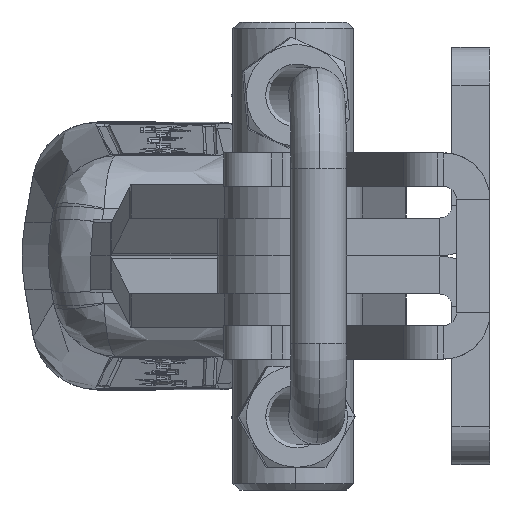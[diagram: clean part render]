
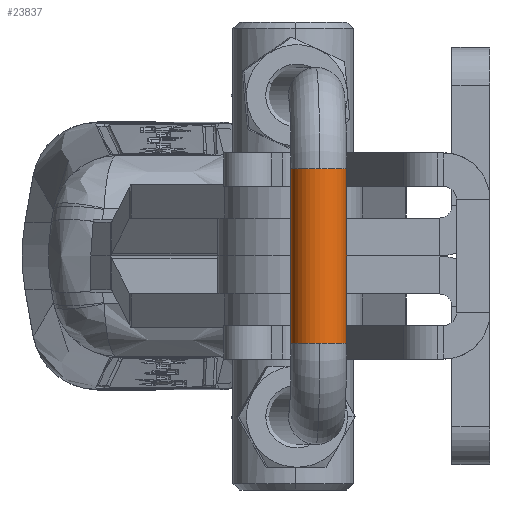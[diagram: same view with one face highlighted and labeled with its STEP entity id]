
A CAD part, left-side view. The second image highlights one B-rep face of the part: STEP entity #23837.
In plain terms, the highlighted cylindrical face has radius 2.2 mm (diameter 4.4 mm), a partial arc.
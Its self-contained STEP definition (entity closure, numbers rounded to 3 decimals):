
#33 = CARTESIAN_POINT ( 'NONE',  ( -6.9, 67.8, 0. ) ) ;
#314 = ORIENTED_EDGE ( 'NONE', *, *, #18533, .T. ) ;
#1699 = ORIENTED_EDGE ( 'NONE', *, *, #8609, .F. ) ;
#2208 = EDGE_LOOP ( 'NONE', ( #19010, #21232, #314, #25832, #11226, #1699 ) ) ;
#2421 = DIRECTION ( 'NONE',  ( 1., 0., 0. ) ) ;
#2561 = AXIS2_PLACEMENT_3D ( 'NONE', #3121, #21958, #5797 ) ;
#3121 = CARTESIAN_POINT ( 'NONE',  ( 6.9, 67.8, 0. ) ) ;
#4675 = DIRECTION ( 'NONE',  ( 1., 0., 0. ) ) ;
#4688 = AXIS2_PLACEMENT_3D ( 'NONE', #6271, #25173, #8998 ) ;
#5797 = DIRECTION ( 'NONE',  ( 0., 0., 1. ) ) ;
#5807 = CYLINDRICAL_SURFACE ( 'NONE', #6839, 2.2 ) ;
#6271 = CARTESIAN_POINT ( 'NONE',  ( -6.9, 67.8, 0. ) ) ;
#6839 = AXIS2_PLACEMENT_3D ( 'NONE', #33, #24296, #8109 ) ;
#7678 = CIRCLE ( 'NONE', #28872, 2.2 ) ;
#8109 = DIRECTION ( 'NONE',  ( 0., 0., -1. ) ) ;
#8609 = EDGE_CURVE ( 'NONE', #11416, #32201, #16649, .T. ) ;
#8998 = DIRECTION ( 'NONE',  ( 0., 0., 1. ) ) ;
#10195 = CARTESIAN_POINT ( 'NONE',  ( -6.9, 67.8, 2.2 ) ) ;
#10313 = DIRECTION ( 'NONE',  ( 1., 0., 0. ) ) ;
#11195 = CARTESIAN_POINT ( 'NONE',  ( 6.9, 70., 0. ) ) ;
#11226 = ORIENTED_EDGE ( 'NONE', *, *, #13157, .F. ) ;
#11416 = VERTEX_POINT ( 'NONE', #13164 ) ;
#12707 = CARTESIAN_POINT ( 'NONE',  ( -6.9, 67.8, -2.2 ) ) ;
#13157 = EDGE_CURVE ( 'NONE', #32201, #33493, #7678, .T. ) ;
#13164 = CARTESIAN_POINT ( 'NONE',  ( -6.9, 67.8, -2.2 ) ) ;
#13400 = AXIS2_PLACEMENT_3D ( 'NONE', #18535, #2421, #21247 ) ;
#13991 = CIRCLE ( 'NONE', #13400, 2.2 ) ;
#16649 = LINE ( 'NONE', #12707, #30173 ) ;
#17142 = CARTESIAN_POINT ( 'NONE',  ( 6.9, 67.8, -2.2 ) ) ;
#17337 = CARTESIAN_POINT ( 'NONE',  ( -6.9, 67.8, 2.2 ) ) ;
#17791 = VECTOR ( 'NONE', #10313, 1000. ) ;
#18533 = EDGE_CURVE ( 'NONE', #29770, #23942, #28794, .T. ) ;
#18535 = CARTESIAN_POINT ( 'NONE',  ( -6.9, 67.8, 0. ) ) ;
#18934 = EDGE_CURVE ( 'NONE', #21807, #29770, #13991, .T. ) ;
#19010 = ORIENTED_EDGE ( 'NONE', *, *, #27797, .T. ) ;
#19392 = CIRCLE ( 'NONE', #2561, 2.2 ) ;
#20829 = CARTESIAN_POINT ( 'NONE',  ( 6.9, 67.8, 0. ) ) ;
#21020 = FACE_OUTER_BOUND ( 'NONE', #2208, .T. ) ;
#21232 = ORIENTED_EDGE ( 'NONE', *, *, #18934, .T. ) ;
#21247 = DIRECTION ( 'NONE',  ( 0., 0., 1. ) ) ;
#21728 = EDGE_CURVE ( 'NONE', #33493, #23942, #19392, .T. ) ;
#21807 = VERTEX_POINT ( 'NONE', #24795 ) ;
#21958 = DIRECTION ( 'NONE',  ( 1., 0., 0. ) ) ;
#23554 = DIRECTION ( 'NONE',  ( 0., 0., 1. ) ) ;
#23837 = ADVANCED_FACE ( 'NONE', ( #21020 ), #5807, .T. ) ;
#23942 = VERTEX_POINT ( 'NONE', #24743 ) ;
#24296 = DIRECTION ( 'NONE',  ( 1., 0., 0. ) ) ;
#24743 = CARTESIAN_POINT ( 'NONE',  ( 6.9, 67.8, 2.2 ) ) ;
#24795 = CARTESIAN_POINT ( 'NONE',  ( -6.9, 70., 0. ) ) ;
#25173 = DIRECTION ( 'NONE',  ( 1., 0., 0. ) ) ;
#25832 = ORIENTED_EDGE ( 'NONE', *, *, #21728, .F. ) ;
#26063 = DIRECTION ( 'NONE',  ( 1., 0., 0. ) ) ;
#27797 = EDGE_CURVE ( 'NONE', #11416, #21807, #29304, .T. ) ;
#28794 = LINE ( 'NONE', #10195, #17791 ) ;
#28872 = AXIS2_PLACEMENT_3D ( 'NONE', #20829, #4675, #23554 ) ;
#29304 = CIRCLE ( 'NONE', #4688, 2.2 ) ;
#29770 = VERTEX_POINT ( 'NONE', #17337 ) ;
#30173 = VECTOR ( 'NONE', #26063, 1000. ) ;
#32201 = VERTEX_POINT ( 'NONE', #17142 ) ;
#33493 = VERTEX_POINT ( 'NONE', #11195 ) ;
